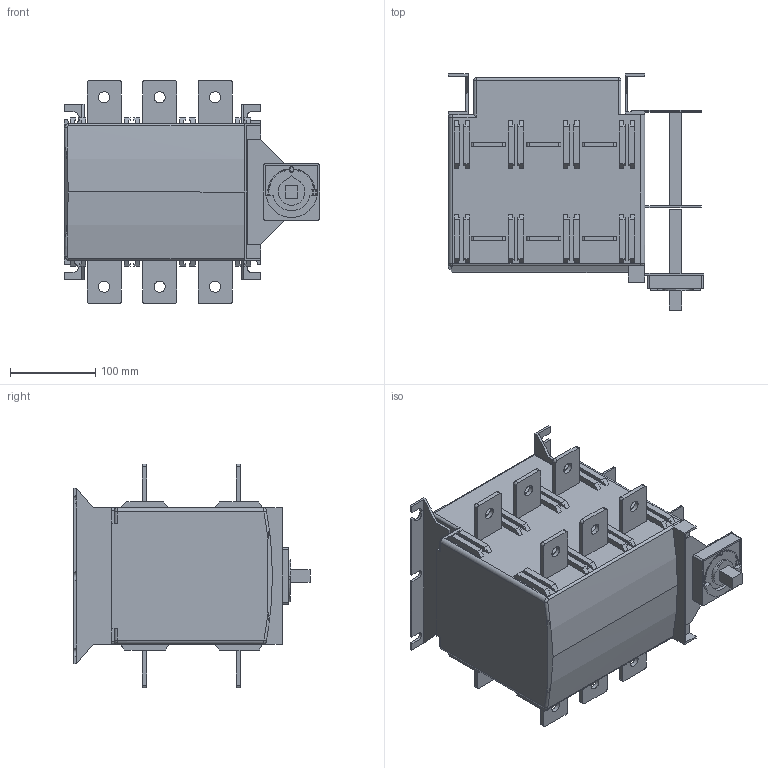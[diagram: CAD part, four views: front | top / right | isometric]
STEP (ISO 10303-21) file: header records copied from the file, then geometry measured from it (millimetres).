
FILE_DESCRIPTION((''),'2;1');
FILE_NAME('NH40-630-3CS-1','2021-09-06T',('shift'),(''),'CREO PARAMETRIC BY PTC INC, 2014500','CREO PARAMETRIC BY PTC INC, 2014500','');
FILE_SCHEMA(('AUTOMOTIVE_DESIGN { 1 0 10303 214 1 1 1 1 }'));
Length unit declared in the file: millimetre
Products named in the file (1): NH40-630-3CS-1
Bounding box: 298.75 x 276.5 x 262 mm (x, y, z)
Volume: 8318907 mm3; surface area: 426850.4 mm2
Topology: 1 solids, 1 shells, 650 faces, 1736 edges, 1140 vertices
Faces by surface type: plane 516, cylinder 93, extrusion 27, bspline 6, sphere 4, torus 4
Entity records: 20767 total; most frequent: CARTESIAN_POINT 4226, ORIENTED_EDGE 3464, DIRECTION 3103, EDGE_CURVE 1732, VECTOR 1493, LINE 1466, VERTEX_POINT 1140, AXIS2_PLACEMENT_3D 805
